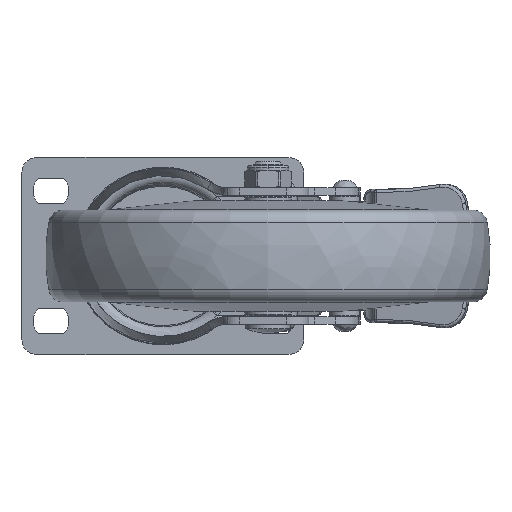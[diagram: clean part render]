
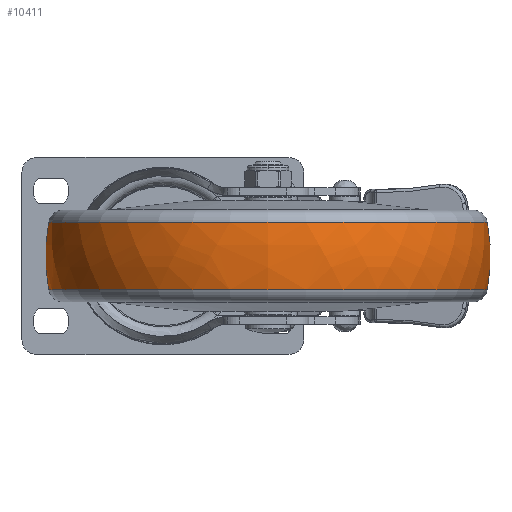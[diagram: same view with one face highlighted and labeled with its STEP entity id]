
A CAD part, front view. The second image highlights one B-rep face of the part: STEP entity #10411.
In plain terms, the highlighted free-form (B-spline) face has degree [3, 3] with [7, 4] control points.
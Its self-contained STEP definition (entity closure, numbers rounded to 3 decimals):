
#9640=CARTESIAN_POINT('',(-11.405,0.,0.));
#9641=DIRECTION('',(-1.,0.,0.));
#9642=DIRECTION('',(0.,1.,0.));
#9643=AXIS2_PLACEMENT_3D('',#9640,#9641,#9642);
#9655=CARTESIAN_POINT('',(0.,12.018,0.));
#9656=DIRECTION('',(0.,0.,1.));
#9657=DIRECTION('',(0.181,0.983,0.));
#9658=AXIS2_PLACEMENT_3D('',#9655,#9656,#9657);
#9660=CARTESIAN_POINT('',(0.,-12.018,0.));
#9661=DIRECTION('',(0.,0.,-1.));
#9662=DIRECTION('',(0.181,-0.983,0.));
#9663=AXIS2_PLACEMENT_3D('',#9660,#9661,#9662);
#9665=CARTESIAN_POINT('',(11.405,0.,0.));
#9666=DIRECTION('',(-1.,0.,0.));
#9667=DIRECTION('',(0.,1.,0.));
#9668=AXIS2_PLACEMENT_3D('',#9665,#9666,#9667);
#9917=CARTESIAN_POINT('',(11.405,73.977,0.));
#9919=VERTEX_POINT('',#9917);
#9920=CARTESIAN_POINT('',(-11.405,73.977,0.));
#9921=VERTEX_POINT('',#9920);
#9969=CARTESIAN_POINT('',(11.405,-73.977,
0.));
#9971=VERTEX_POINT('',#9969);
#9972=CARTESIAN_POINT('',(-11.405,-73.977,
0.));
#9973=VERTEX_POINT('',#9972);
#10375=CARTESIAN_POINT('',(-11.856,-73.746,
4.64));
#10376=CARTESIAN_POINT('',(-4.,-75.249,
4.734));
#10377=CARTESIAN_POINT('',(4.,-75.249,
4.734));
#10378=CARTESIAN_POINT('',(11.856,-73.746,
4.64));
#10379=CARTESIAN_POINT('',(-11.856,-76.601,
-40.744));
#10380=CARTESIAN_POINT('',(-4.,-78.162,
-41.574));
#10381=CARTESIAN_POINT('',(4.,-78.162,
-41.574));
#10382=CARTESIAN_POINT('',(11.856,-76.601,
-40.744));
#10383=CARTESIAN_POINT('',(-11.856,-45.473,
-73.892));
#10384=CARTESIAN_POINT('',(-4.,-46.399,
-75.397));
#10385=CARTESIAN_POINT('',(4.,-46.399,
-75.397));
#10386=CARTESIAN_POINT('',(11.856,-45.473,
-73.892));
#10387=CARTESIAN_POINT('',(-11.856,0.,
-73.892));
#10388=CARTESIAN_POINT('',(-4.,0.,
-75.397));
#10389=CARTESIAN_POINT('',(4.,0.,
-75.397));
#10390=CARTESIAN_POINT('',(11.856,0.,
-73.892));
#10391=CARTESIAN_POINT('',(-11.856,45.473,
-73.892));
#10392=CARTESIAN_POINT('',(-4.,46.399,
-75.397));
#10393=CARTESIAN_POINT('',(4.,46.399,
-75.397));
#10394=CARTESIAN_POINT('',(11.856,45.473,
-73.892));
#10395=CARTESIAN_POINT('',(-11.856,76.601,
-40.744));
#10396=CARTESIAN_POINT('',(-4.,78.162,
-41.574));
#10397=CARTESIAN_POINT('',(4.,78.162,
-41.574));
#10398=CARTESIAN_POINT('',(11.856,76.601,
-40.744));
#10399=CARTESIAN_POINT('',(-11.856,73.746,
4.64));
#10400=CARTESIAN_POINT('',(-4.,75.249,
4.734));
#10401=CARTESIAN_POINT('',(4.,75.249,4.734));
#10402=CARTESIAN_POINT('',(11.856,73.746,4.64));
#10403=(BOUNDED_SURFACE()B_SPLINE_SURFACE(3,3,((#10375,#10376,#10377,#10378),(
#10379,#10380,#10381,#10382),(#10383,#10384,#10385,#10386),(#10387,#10388,
#10389,#10390),(#10391,#10392,#10393,#10394),(#10395,#10396,#10397,#10398),(
#10399,#10400,#10401,#10402)),.UNSPECIFIED.,.F.,.F.,.F.)B_SPLINE_SURFACE_WITH_KNOTS((4,3,4),(4,4),(0.,1.,2.),(0.,1.),.UNSPECIFIED.)GEOMETRIC_REPRESENTATION_ITEM()RATIONAL_B_SPLINE_SURFACE(((1.198,1.184,
1.184,1.198),(0.946,0.935,
0.935,0.946),(0.946,0.935,
0.935,0.946),(1.198,1.184,
1.184,1.198),(0.946,0.935,
0.935,0.946),(0.946,0.935,
0.935,0.946),(1.198,1.184,
1.184,1.198)))REPRESENTATION_ITEM('')SURFACE());
#10404=ORIENTED_EDGE('',*,*,#10365,.T.);
#10405=ORIENTED_EDGE('',*,*,#10318,.T.);
#10406=ORIENTED_EDGE('',*,*,#10369,.F.);
#10408=ORIENTED_EDGE('',*,*,#10407,.F.);
#10409=EDGE_LOOP('',(#10404,#10405,#10406,#10408));
#10410=FACE_OUTER_BOUND('',#10409,.F.);
#9644=CIRCLE('',#9643,73.977);
#9659=CIRCLE('',#9658,63.);
#9664=CIRCLE('',#9663,63.);
#9669=CIRCLE('',#9668,73.977);
#10318=EDGE_CURVE('',#9921,#9973,#9644,.T.);
#10365=EDGE_CURVE('',#9919,#9921,#9659,.T.);
#10369=EDGE_CURVE('',#9971,#9973,#9664,.T.);
#10407=EDGE_CURVE('',#9919,#9971,#9669,.T.);
#10411=ADVANCED_FACE('',(#10410),#10403,.T.);
